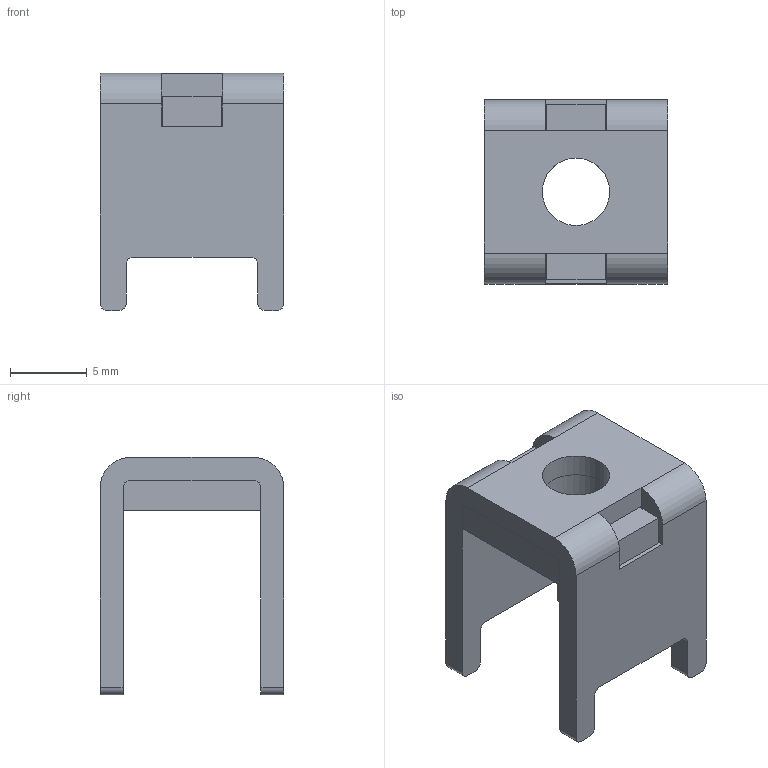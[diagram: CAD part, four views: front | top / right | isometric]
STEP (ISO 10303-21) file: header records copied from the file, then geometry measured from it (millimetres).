
FILE_DESCRIPTION(/* description */ (''),/* implementation_level */ '2;1');
FILE_NAME(/* name */ '12x12料厚1.5铁板高12mm 脚长3.5mm.stp',/* time_stamp */ '2025-06-26T18:36:36+08:00',/* author */ (''),/* organization */ (''),/* preprocessor_version */ 'ST-DEVELOPER v16',/* originating_system */ 'SIEMENS PLM Software NX 10.0',/* authorisation */ '');
FILE_SCHEMA (('AP203_CONFIGURATION_CONTROLLED_3D_DESIGN_OF_MECHANICAL_PARTS_AND_ASSEMBLIES_MIM_LF { 1 0 10303 403 2 1 2}'));
Length unit declared in the file: millimetre
Products named in the file (1): Admi2ABC7C88fx01
Bounding box: 12 x 12 x 15.5 mm (x, y, z)
Volume: 748.6 mm3; surface area: 1284.6 mm2
Topology: 2 solids, 2 shells, 66 faces, 191 edges, 125 vertices
Faces by surface type: plane 40, cylinder 26
Full cylindrical faces by diameter (mm): 4.4 x2
Entity records: 2258 total; most frequent: CARTESIAN_POINT 379, ORIENTED_EDGE 376, DIRECTION 374, EDGE_CURVE 188, LINE 136, VECTOR 136, VERTEX_POINT 124, AXIS2_PLACEMENT_3D 119
